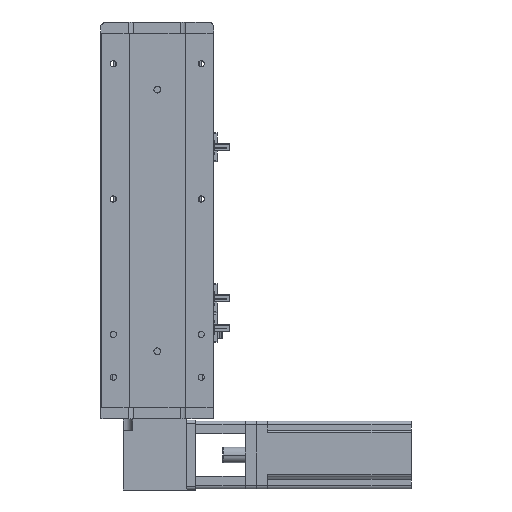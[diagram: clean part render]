
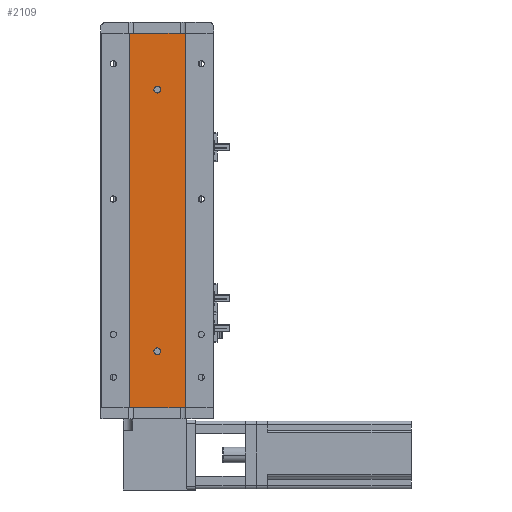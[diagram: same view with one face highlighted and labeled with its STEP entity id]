
A CAD part, left-side view. The second image highlights one B-rep face of the part: STEP entity #2109.
In plain terms, the highlighted planar face has unit normal (-1, 0, 0).
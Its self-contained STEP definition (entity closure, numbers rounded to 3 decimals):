
#264 = VERTEX_POINT ( 'NONE', #2648 ) ;
#1055 = LINE ( 'NONE', #21264, #35828 ) ;
#1517 = VECTOR ( 'NONE', #25068, 1000. ) ;
#1830 = AXIS2_PLACEMENT_3D ( 'NONE', #14014, #37563, #17426 ) ;
#2109 = ADVANCED_FACE ( 'NONE', ( #17560, #5442, #16525 ), #25303, .F. ) ;
#2190 = VERTEX_POINT ( 'NONE', #14434 ) ;
#2309 = EDGE_CURVE ( 'NONE', #31449, #17752, #30138, .T. ) ;
#2648 = CARTESIAN_POINT ( 'NONE',  ( -18.926, 0., 285. ) ) ;
#3259 = ORIENTED_EDGE ( 'NONE', *, *, #6228, .F. ) ;
#3805 = ORIENTED_EDGE ( 'NONE', *, *, #26076, .T. ) ;
#4463 = CARTESIAN_POINT ( 'NONE',  ( -18.926, 24.785, 332. ) ) ;
#5442 = FACE_BOUND ( 'NONE', #42062, .T. ) ;
#6155 = VERTEX_POINT ( 'NONE', #7487 ) ;
#6228 = EDGE_CURVE ( 'NONE', #6155, #38329, #16856, .T. ) ;
#6494 = EDGE_CURVE ( 'NONE', #17752, #31449, #39407, .T. ) ;
#6863 = VECTOR ( 'NONE', #24678, 1000. ) ;
#7487 = CARTESIAN_POINT ( 'NONE',  ( -18.926, 24.785, 332. ) ) ;
#9664 = VERTEX_POINT ( 'NONE', #12770 ) ;
#10528 = LINE ( 'NONE', #14895, #1517 ) ;
#10844 = DIRECTION ( 'NONE',  ( 0., 0., -1. ) ) ;
#11076 = EDGE_CURVE ( 'NONE', #2190, #264, #27364, .T. ) ;
#12770 = CARTESIAN_POINT ( 'NONE',  ( -18.926, 24.785, 0. ) ) ;
#13009 = EDGE_CURVE ( 'NONE', #38329, #19003, #43548, .T. ) ;
#14014 = CARTESIAN_POINT ( 'NONE',  ( -18.926, 0., 282. ) ) ;
#14434 = CARTESIAN_POINT ( 'NONE',  ( -18.926, 0., 279. ) ) ;
#14638 = DIRECTION ( 'NONE',  ( 0., 0., -1. ) ) ;
#14884 = ORIENTED_EDGE ( 'NONE', *, *, #11076, .F. ) ;
#14895 = CARTESIAN_POINT ( 'NONE',  ( -18.926, 24.785, 0. ) ) ;
#16525 = FACE_OUTER_BOUND ( 'NONE', #17806, .T. ) ;
#16856 = LINE ( 'NONE', #4463, #6863 ) ;
#17379 = DIRECTION ( 'NONE',  ( 0., 0., -1. ) ) ;
#17426 = DIRECTION ( 'NONE',  ( 0., 0., 1. ) ) ;
#17560 = FACE_BOUND ( 'NONE', #22560, .T. ) ;
#17752 = VERTEX_POINT ( 'NONE', #26306 ) ;
#17756 = VECTOR ( 'NONE', #17379, 1000. ) ;
#17806 = EDGE_LOOP ( 'NONE', ( #40729, #40525, #3259, #3805 ) ) ;
#17989 = CARTESIAN_POINT ( 'NONE',  ( -18.926, 0., 282. ) ) ;
#19003 = VERTEX_POINT ( 'NONE', #21730 ) ;
#19603 = CARTESIAN_POINT ( 'NONE',  ( -18.926, 0., 50. ) ) ;
#21264 = CARTESIAN_POINT ( 'NONE',  ( -18.926, 24.785, 332. ) ) ;
#21368 = CARTESIAN_POINT ( 'NONE',  ( -18.926, 24.785, 332. ) ) ;
#21382 = DIRECTION ( 'NONE',  ( 0., 0., 1. ) ) ;
#21730 = CARTESIAN_POINT ( 'NONE',  ( -18.926, -24.785, 0. ) ) ;
#22560 = EDGE_LOOP ( 'NONE', ( #24930, #38484 ) ) ;
#22992 = DIRECTION ( 'NONE',  ( 0., 0., 1. ) ) ;
#23992 = DIRECTION ( 'NONE',  ( 1., 0., 0. ) ) ;
#24678 = DIRECTION ( 'NONE',  ( 0., -1., 0. ) ) ;
#24930 = ORIENTED_EDGE ( 'NONE', *, *, #2309, .F. ) ;
#25068 = DIRECTION ( 'NONE',  ( 0., -1., 0. ) ) ;
#25303 = PLANE ( 'NONE',  #27808 ) ;
#25423 = ORIENTED_EDGE ( 'NONE', *, *, #37012, .F. ) ;
#26076 = EDGE_CURVE ( 'NONE', #6155, #9664, #1055, .T. ) ;
#26306 = CARTESIAN_POINT ( 'NONE',  ( -18.926, 0., 47. ) ) ;
#27364 = CIRCLE ( 'NONE', #29919, 3. ) ;
#27443 = CARTESIAN_POINT ( 'NONE',  ( -18.926, -24.785, 332. ) ) ;
#27808 = AXIS2_PLACEMENT_3D ( 'NONE', #21368, #23992, #10844 ) ;
#29919 = AXIS2_PLACEMENT_3D ( 'NONE', #17989, #41554, #21382 ) ;
#30138 = CIRCLE ( 'NONE', #38239, 3. ) ;
#31449 = VERTEX_POINT ( 'NONE', #43586 ) ;
#34497 = AXIS2_PLACEMENT_3D ( 'NONE', #19603, #43167, #22992 ) ;
#34741 = CIRCLE ( 'NONE', #1830, 3. ) ;
#35828 = VECTOR ( 'NONE', #14638, 1000. ) ;
#37012 = EDGE_CURVE ( 'NONE', #264, #2190, #34741, .T. ) ;
#37201 = EDGE_CURVE ( 'NONE', #9664, #19003, #10528, .T. ) ;
#37563 = DIRECTION ( 'NONE',  ( -1., 0., 0. ) ) ;
#37659 = CARTESIAN_POINT ( 'NONE',  ( -18.926, -24.785, 332. ) ) ;
#38239 = AXIS2_PLACEMENT_3D ( 'NONE', #41923, #41875, #41827 ) ;
#38329 = VERTEX_POINT ( 'NONE', #27443 ) ;
#38484 = ORIENTED_EDGE ( 'NONE', *, *, #6494, .F. ) ;
#39407 = CIRCLE ( 'NONE', #34497, 3. ) ;
#40525 = ORIENTED_EDGE ( 'NONE', *, *, #13009, .F. ) ;
#40729 = ORIENTED_EDGE ( 'NONE', *, *, #37201, .T. ) ;
#41554 = DIRECTION ( 'NONE',  ( -1., 0., 0. ) ) ;
#41827 = DIRECTION ( 'NONE',  ( 0., 0., 1. ) ) ;
#41875 = DIRECTION ( 'NONE',  ( -1., 0., 0. ) ) ;
#41923 = CARTESIAN_POINT ( 'NONE',  ( -18.926, 0., 50. ) ) ;
#42062 = EDGE_LOOP ( 'NONE', ( #25423, #14884 ) ) ;
#43167 = DIRECTION ( 'NONE',  ( -1., 0., 0. ) ) ;
#43548 = LINE ( 'NONE', #37659, #17756 ) ;
#43586 = CARTESIAN_POINT ( 'NONE',  ( -18.926, 0., 53. ) ) ;
